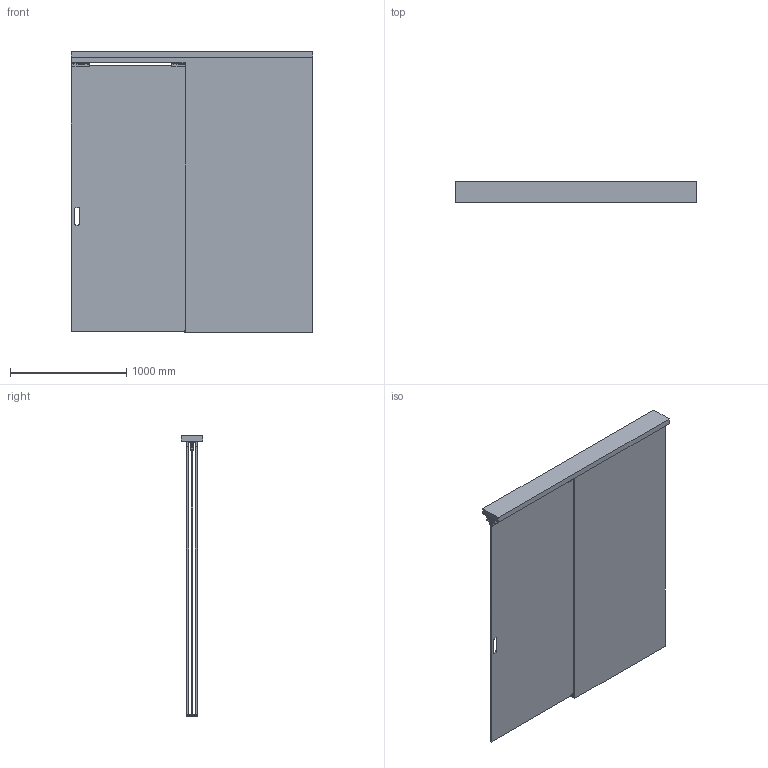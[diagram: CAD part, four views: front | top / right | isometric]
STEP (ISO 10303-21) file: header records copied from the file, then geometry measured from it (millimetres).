
FILE_DESCRIPTION(('STEP AP242'),'1');
FILE_NAME('OPO_56.047.03.stp','2026-01-14T05:20:24',(' '),(' '),'Spatial InterOp 3D',' ',' ');
FILE_SCHEMA(('AP242_MANAGED_MODEL_BASED_3D_ENGINEERING_MIM_LF {1 0 10303 442 1 1 4}'));
Length unit declared in the file: millimetre
Products named in the file (9): Zeichnung2; OPO_56.047.03_Aktivator; OPO_65.082.78; OPO_56.047.03_Laufwerk; OPO_56.047.03_Laufwerk_mit_Daempfer; OPO_65.083.42; OPO_56.047.03_Aktivator_lang; OPO_56.047.03_Bodenfuehrung_Pocket_Glas; AutoCreatedBlock_1C1
Assembly tree (10 placements, depth 2):
  Zeichnung2
    OPO_56.047.03_Aktivator
    OPO_65.082.78  x2
    OPO_56.047.03_Laufwerk
    OPO_56.047.03_Laufwerk_mit_Daempfer
    OPO_65.083.42  x2
    OPO_56.047.03_Aktivator_lang
    OPO_56.047.03_Bodenfuehrung_Pocket_Glas
    AutoCreatedBlock_1C1
Bounding box: 2080 x 188 x 2418 mm (x, y, z)
Volume: 145002645.3 mm3; surface area: 17738766.4 mm2
Topology: 77 solids, 77 shells, 1542 faces, 3944 edges, 2605 vertices
Faces by surface type: plane 922, cylinder 592, cone 28
Entity records: 49989 total; most frequent: CARTESIAN_POINT 6999, DIRECTION 6928, ORIENTED_EDGE 6584, EDGE_CURVE 3292, AXIS2_PLACEMENT_3D 2344, LINE 2240, VECTOR 2240, VERTEX_POINT 2177
